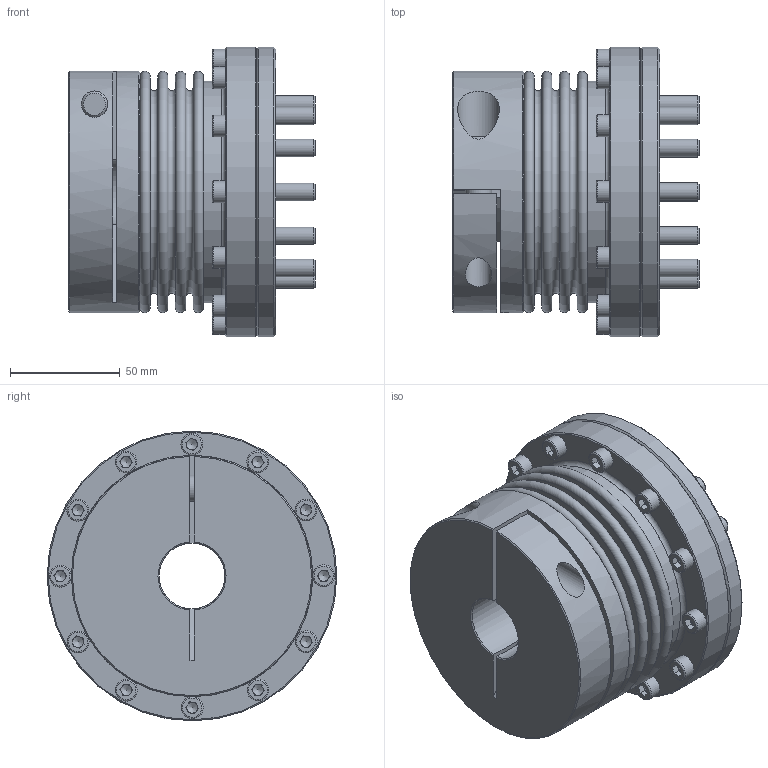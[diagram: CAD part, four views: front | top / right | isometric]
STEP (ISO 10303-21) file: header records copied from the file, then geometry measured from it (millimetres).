
FILE_DESCRIPTION( ( 'Unknown' ), '1' );
FILE_NAME( 'C:/Users/skarpstein/Desktop/KB4F/KB4F-300-90.stp', 'Unknown', ( 'Unknown' ), ( 'Unknown' ), 'PSStep 16.0.42', 'Unknown', ' ' );
FILE_SCHEMA( ( 'AUTOMOTIVE_DESIGN { 1 0 10303 214 1 1 1 1 }' ) );
Length unit declared in the file: millimetre
Products named in the file (8): Assem1; BK300_Standard_0; Socket Head Cap Screw_DIN_DIN 912 M12 x 35 --- 35N_2; KN300C_Standard_0; ISO 4017 - M8 x 30-N; Kupplungsflansch F300; Flansch A80-F300; Socket Head Cap Screw_DIN_DIN 912 M6 x 20 --- 20N
Assembly tree (29 placements, depth 2):
  Assem1
    BK300_Standard_0
    Socket Head Cap Screw_DIN_DIN 912 M12 x 35 --- 35N_2
    KN300C_Standard_0
    ISO 4017 - M8 x 30-N  x12
    Kupplungsflansch F300
    Flansch A80-F300
    Socket Head Cap Screw_DIN_DIN 912 M6 x 20 --- 20N  x12
Bounding box: 112.45 x 132 x 132 mm (x, y, z)
Volume: 545956.2 mm3; surface area: 199381.4 mm2
Topology: 29 solids, 29 shells, 695 faces, 1517 edges, 926 vertices
Faces by surface type: plane 411, cone 125, cylinder 105, torus 54
Full cylindrical faces by diameter (mm): 4.917 x12, 6 x12, 6.6 x12, 8 x12, 9 x12, 10 x12, 12 x2, 12.5 x1, 13 x12, 18 x1, 19 x1, 30 x1, 60 x1, 64 x1, 99.8 x3, 100 x1, 101 x2, 105 x2, 110 x1, 132 x2
Entity records: 6837 total; most frequent: CARTESIAN_POINT 1016, DIRECTION 923, ORIENTED_EDGE 608, AXIS2_PLACEMENT_3D 421, EDGE_LOOP 394, EDGE_CURVE 304, FACE_OUTER_BOUND 269, VERTEX_POINT 260
